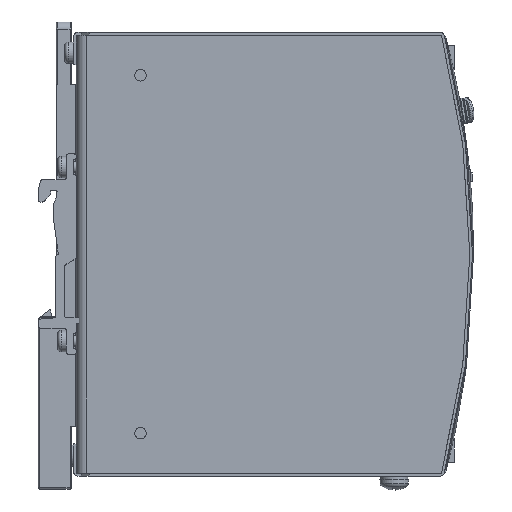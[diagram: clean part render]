
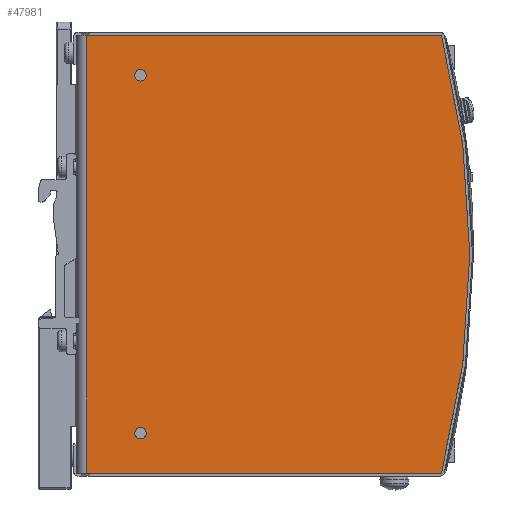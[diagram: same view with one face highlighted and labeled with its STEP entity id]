
A CAD part, front view. The second image highlights one B-rep face of the part: STEP entity #47981.
In plain terms, the highlighted planar face has unit normal (0, -1, 0).
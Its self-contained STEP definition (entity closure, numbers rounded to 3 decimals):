
#1569=LINE('',#65232,#7135);
#1576=LINE('',#65256,#7142);
#1578=LINE('',#65261,#7144);
#7135=VECTOR('',#53610,99.079);
#7142=VECTOR('',#53637,122.3);
#7144=VECTOR('',#53643,99.079);
#12685=PLANE('',#50543);
#14624=FACE_BOUND('',#17908,.T.);
#14625=FACE_BOUND('',#17909,.T.);
#15373=FACE_OUTER_BOUND('',#17907,.T.);
#17907=EDGE_LOOP('',(#33689,#33690,#33691,#33692));
#17908=EDGE_LOOP('',(#33693));
#17909=EDGE_LOOP('',(#33694));
#21149=CIRCLE('',#50507,1.6);
#21151=CIRCLE('',#50510,1.6);
#21156=CIRCLE('',#50522,240.);
#21835=VERTEX_POINT('',#65152);
#21837=VERTEX_POINT('',#65157);
#21850=VERTEX_POINT('',#65194);
#21851=VERTEX_POINT('',#65195);
#21865=VERTEX_POINT('',#65231);
#21872=VERTEX_POINT('',#65255);
#26548=EDGE_CURVE('',#21835,#21835,#21149,.T.);
#26550=EDGE_CURVE('',#21837,#21837,#21151,.T.);
#26567=EDGE_CURVE('',#21850,#21851,#21156,.T.);
#26585=EDGE_CURVE('',#21850,#21865,#1569,.T.);
#26597=EDGE_CURVE('',#21872,#21865,#1576,.T.);
#26600=EDGE_CURVE('',#21851,#21872,#1578,.T.);
#33689=ORIENTED_EDGE('',*,*,#26567,.T.);
#33690=ORIENTED_EDGE('',*,*,#26600,.T.);
#33691=ORIENTED_EDGE('',*,*,#26597,.T.);
#33692=ORIENTED_EDGE('',*,*,#26585,.F.);
#33693=ORIENTED_EDGE('',*,*,#26548,.T.);
#33694=ORIENTED_EDGE('',*,*,#26550,.T.);
#47981=ADVANCED_FACE('',(#15373,#14624,#14625),#12685,.T.);
#50507=AXIS2_PLACEMENT_3D('',#65153,#53536,#53537);
#50510=AXIS2_PLACEMENT_3D('',#65158,#53542,#53543);
#50522=AXIS2_PLACEMENT_3D('',#65196,#53578,#53579);
#50543=AXIS2_PLACEMENT_3D('',#65260,#53641,#53642);
#53536=DIRECTION('center_axis',(0.,1.,0.));
#53537=DIRECTION('ref_axis',(-1.,0.,0.));
#53542=DIRECTION('center_axis',(0.,1.,0.));
#53543=DIRECTION('ref_axis',(-1.,0.,0.));
#53578=DIRECTION('center_axis',(0.,-1.,0.));
#53579=DIRECTION('ref_axis',(-0.967,0.,-0.255));
#53610=DIRECTION('',(-1.,0.,0.));
#53637=DIRECTION('',(0.,0.,-1.));
#53641=DIRECTION('center_axis',(0.,-1.,0.));
#53642=DIRECTION('ref_axis',(0.,0.,-1.));
#53643=DIRECTION('',(-1.,0.,0.));
#65152=CARTESIAN_POINT('',(19.6,-19.5,50.));
#65153=CARTESIAN_POINT('Origin',(18.,-19.5,50.));
#65157=CARTESIAN_POINT('',(19.6,-19.5,-50.));
#65158=CARTESIAN_POINT('Origin',(18.,-19.5,-50.));
#65194=CARTESIAN_POINT('',(102.079,-19.5,-61.15));
#65195=CARTESIAN_POINT('',(102.079,-19.5,61.15));
#65196=CARTESIAN_POINT('Origin',(-130.,-19.5,0.));
#65231=CARTESIAN_POINT('',(3.,-19.5,-61.15));
#65232=CARTESIAN_POINT('',(130.,-19.5,-61.15));
#65255=CARTESIAN_POINT('',(3.,-19.5,61.15));
#65256=CARTESIAN_POINT('',(3.,-19.5,-61.15));
#65260=CARTESIAN_POINT('Origin',(130.,-19.5,-61.15));
#65261=CARTESIAN_POINT('',(130.,-19.5,61.15));
